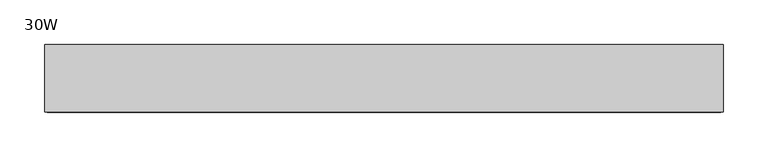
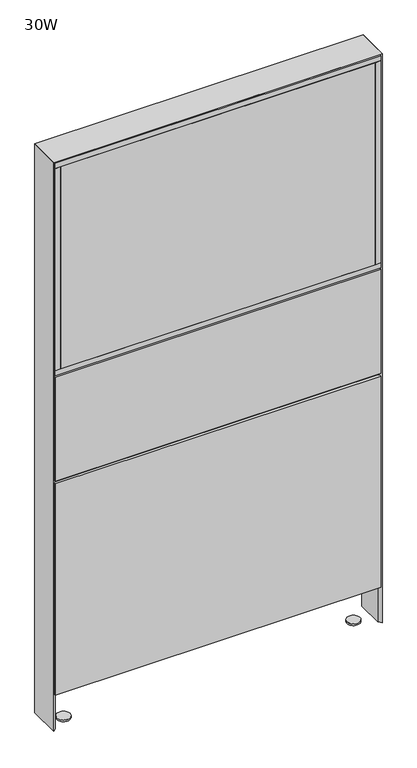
"""IFC4 building model written with IfcOpenShell, lengths in millimetres: furniture geometry, Steelcase - Montage - Frame - 55H - Enhanced Monolithic - Base Cavity : 30W."""

from ifc_helpers import new_model, si_unit, point, frame, frame_2d, origin, origin_with_axes, place, context, project, spatial, polyline, circle_curve, trimmed, segment, composite_curve, outline, extrude, faceted_brep, source, transform, mapped, element, save


def furniture_30w_86e96df7(model_context):
    return source(origin(), model_context, "Body", "SolidModel", [
        extrude(outline(polyline([(15.875, 38.1000015), (746.125, 38.1000015), (746.125, 31.7500017), (15.875, 31.7500017), (15.875, 38.1000015)])), frame((0.0, 0.0, 887.4125), z_axis=(0.0, 0.0, 1.0), x_axis=(1.0, 0.0, 0.0)), (0.0, 0.0, 1.0), 495.3),
        extrude(outline(polyline([(15.875, -31.7499985), (746.125, -31.7499985), (746.125, -38.1000015), (15.875, -38.1000015), (15.875, -31.7499985)])), frame((0.0, 0.0, 887.4125), z_axis=(0.0, 0.0, 1.0), x_axis=(1.0, 0.0, 0.0)), (0.0, 0.0, 1.0), 495.3),
        extrude(outline(polyline([(3.175, -38.1000015), (3.175, 38.1000015), (15.875, 38.1000015), (15.875, -38.1000015), (3.175, -38.1000015)])), frame((0.0, 0.0, 887.4125), z_axis=(0.0, 0.0, 1.0), x_axis=(1.0, 0.0, 0.0)), (0.0, 0.0, 1.0), 495.3),
        extrude(outline(polyline([(746.125, -38.1000015), (746.125, 38.1000015), (758.825, 38.1000015), (758.825, -38.1000015), (746.125, -38.1000015)])), frame((0.0, 0.0, 887.4125), z_axis=(0.0, 0.0, 1.0), x_axis=(1.0, 0.0, 0.0)), (0.0, 0.0, 1.0), 495.3),
        extrude(outline(polyline([(3.175, -38.1000015), (3.175, 38.1000015), (758.825, 38.1000015), (758.825, -38.1000015), (3.175, -38.1000015)])), frame((0.0, 0.0, 874.7125), z_axis=(0.0, 0.0, 1.0), x_axis=(1.0, 0.0, 0.0)), (0.0, 0.0, 1.0), 12.7),
        extrude(outline(polyline([(3.175, -38.1000015), (3.175, 38.1000015), (758.825, 38.1000015), (758.825, -38.1000015), (3.175, -38.1000015)])), frame((0.0, 0.0, 1382.7125), z_axis=(0.0, 0.0, 1.0), x_axis=(1.0, 0.0, 0.0)), (0.0, 0.0, 1.0), 12.7),
        extrude(outline(polyline([(758.825, 31.7500194), (3.175, 31.7500194), (3.175, 38.1000194), (758.825, 38.1000194), (758.825, 31.7500194)])), frame((0.0, 0.0, 615.95), z_axis=(0.0, 0.0, 1.0), x_axis=(1.0, 0.0, 0.0)), (0.0, 0.0, 1.0), 255.5875),
        extrude(outline(polyline([(758.825, 31.7500194), (3.175, 31.7500194), (3.175, 38.1000194), (758.825, 38.1000194), (758.825, 31.7500194)])), frame((0.0, 0.0, 92.075), z_axis=(0.0, 0.0, 1.0), x_axis=(1.0, 0.0, 0.0)), (0.0, 0.0, 1.0), 517.525),
        extrude(outline(polyline([(746.125, 38.1000015), (746.125, 31.7500017), (15.875, 31.7500017), (15.875, 38.1000015), (746.125, 38.1000015)])), frame((0.0, 0.0, 887.4125), z_axis=(0.0, 0.0, 1.0), x_axis=(1.0, 0.0, 0.0)), (0.0, 0.0, 1.0), 495.3),
        extrude(outline(polyline([(746.125, -31.7499985), (746.125, -38.1000015), (15.875, -38.1000015), (15.875, -31.7499985), (746.125, -31.7499985)])), frame((0.0, 0.0, 887.4125), z_axis=(0.0, 0.0, 1.0), x_axis=(1.0, 0.0, 0.0)), (0.0, 0.0, 1.0), 495.3),
        extrude(outline(polyline([(758.825, -38.1000015), (746.125, -38.1000015), (746.125, 38.1000015), (758.825, 38.1000015), (758.825, -38.1000015)])), frame((0.0, 0.0, 887.4125), z_axis=(0.0, 0.0, 1.0), x_axis=(1.0, 0.0, 0.0)), (0.0, 0.0, 1.0), 495.3),
        extrude(outline(polyline([(15.875, -38.1000015), (3.175, -38.1000015), (3.175, 38.1000015), (15.875, 38.1000015), (15.875, -38.1000015)])), frame((0.0, 0.0, 887.4125), z_axis=(0.0, 0.0, 1.0), x_axis=(1.0, 0.0, 0.0)), (0.0, 0.0, 1.0), 495.3),
        extrude(outline(polyline([(758.825, -38.1000015), (3.175, -38.1000015), (3.175, 38.1000015), (758.825, 38.1000015), (758.825, -38.1000015)])), frame((0.0, 0.0, 874.7125), z_axis=(0.0, 0.0, 1.0), x_axis=(1.0, 0.0, 0.0)), (0.0, 0.0, 1.0), 12.7),
        extrude(outline(polyline([(758.825, -38.1000015), (3.175, -38.1000015), (3.175, 38.1000015), (758.825, 38.1000015), (758.825, -38.1000015)])), frame((0.0, 0.0, 1382.7125), z_axis=(0.0, 0.0, 1.0), x_axis=(1.0, 0.0, 0.0)), (0.0, 0.0, 1.0), 12.7),
        extrude(outline(polyline([(3.175, 31.7500194), (3.175, 38.1000194), (758.825, 38.1000194), (758.825, 31.7500194), (3.175, 31.7500194)])), frame((0.0, 0.0, 615.95), z_axis=(0.0, 0.0, 1.0), x_axis=(1.0, 0.0, 0.0)), (0.0, 0.0, 1.0), 255.5875),
        extrude(outline(polyline([(3.175, 31.7500194), (3.175, 38.1000194), (758.825, 38.1000194), (758.825, 31.7500194), (3.175, 31.7500194)])), frame((0.0, 0.0, 92.075), z_axis=(0.0, 0.0, 1.0), x_axis=(1.0, 0.0, 0.0)), (0.0, 0.0, 1.0), 517.525),
        extrude(outline(polyline([(746.125, -38.1000015), (15.875, -38.1000015), (15.875, -31.7500017), (746.125, -31.7500017), (746.125, -38.1000015)])), frame((0.0, 0.0, 887.4125), z_axis=(0.0, 0.0, 1.0), x_axis=(1.0, 0.0, 0.0)), (0.0, 0.0, 1.0), 495.3),
        extrude(outline(polyline([(746.125, 31.7499985), (15.875, 31.7499985), (15.875, 38.1000015), (746.125, 38.1000015), (746.125, 31.7499985)])), frame((0.0, 0.0, 887.4125), z_axis=(0.0, 0.0, 1.0), x_axis=(1.0, 0.0, 0.0)), (0.0, 0.0, 1.0), 495.3),
        extrude(outline(polyline([(758.825, 38.1000015), (758.825, -38.1000015), (746.125, -38.1000015), (746.125, 38.1000015), (758.825, 38.1000015)])), frame((0.0, 0.0, 887.4125), z_axis=(0.0, 0.0, 1.0), x_axis=(1.0, 0.0, 0.0)), (0.0, 0.0, 1.0), 495.3),
        extrude(outline(polyline([(15.875, 38.1000015), (15.875, -38.1000015), (3.175, -38.1000015), (3.175, 38.1000015), (15.875, 38.1000015)])), frame((0.0, 0.0, 887.4125), z_axis=(0.0, 0.0, 1.0), x_axis=(1.0, 0.0, 0.0)), (0.0, 0.0, 1.0), 495.3),
        extrude(outline(polyline([(758.825, 38.1000015), (758.825, -38.1000015), (3.175, -38.1000015), (3.175, 38.1000015), (758.825, 38.1000015)])), frame((0.0, 0.0, 874.7125), z_axis=(0.0, 0.0, 1.0), x_axis=(1.0, 0.0, 0.0)), (0.0, 0.0, 1.0), 12.7),
        extrude(outline(polyline([(758.825, 38.1000015), (758.825, -38.1000015), (3.175, -38.1000015), (3.175, 38.1000015), (758.825, 38.1000015)])), frame((0.0, 0.0, 1382.7125), z_axis=(0.0, 0.0, 1.0), x_axis=(1.0, 0.0, 0.0)), (0.0, 0.0, 1.0), 12.7),
        extrude(outline(polyline([(3.175, -31.7500194), (758.825, -31.7500194), (758.825, -38.1000194), (3.175, -38.1000194), (3.175, -31.7500194)])), frame((0.0, 0.0, 615.95), z_axis=(0.0, 0.0, 1.0), x_axis=(1.0, 0.0, 0.0)), (0.0, 0.0, 1.0), 255.5875),
        extrude(outline(polyline([(3.175, -31.7500194), (758.825, -31.7500194), (758.825, -38.1000194), (3.175, -38.1000194), (3.175, -31.7500194)])), frame((0.0, 0.0, 92.075), z_axis=(0.0, 0.0, 1.0), x_axis=(1.0, 0.0, 0.0)), (0.0, 0.0, 1.0), 517.525),
        faceted_brep([(762.0, -38.1000015, 1398.5875), (0.0, -38.1000015, 1398.5875), (6.3500484, -31.749953, 1392.2374516), (755.6499516, -31.749953, 1392.2374516), (6.3500484, 31.749953, 1392.2374516), (755.6499516, 31.749953, 1392.2374516), (0.0, 38.1000015, 1398.5875), (762.0, 38.1000015, 1398.5875)], [[[0, 1, 2, 3]], [[3, 2, 4, 5]], [[6, 7, 5, 4]], [[1, 0, 7, 6]], [[2, 1, 6, 4]], [[0, 3, 5, 7]]]),
        extrude(outline(composite_curve([segment(trimmed(circle_curve(frame_2d((44.45, 0.0)), 15.24), [point((29.21, 0.0))], [point((59.69, 0.0))], False, "CARTESIAN"), True, "CONTINUOUS"), segment(trimmed(circle_curve(frame_2d((44.45, 0.0)), 15.24), [point((59.69, 0.0))], [point((29.21, 0.0))], False, "CARTESIAN"), True, "CONTINUOUS")], self_intersect=False)), origin_with_axes(), (0.0, 0.0, 1.0), 4.064),
        extrude(outline(composite_curve([segment(trimmed(circle_curve(frame_2d((717.55, 0.0)), 15.24), [point((702.31, 0.0))], [point((732.79, 0.0))], False, "CARTESIAN"), True, "CONTINUOUS"), segment(trimmed(circle_curve(frame_2d((717.55, 0.0)), 15.24), [point((732.79, 0.0))], [point((702.31, 0.0))], False, "CARTESIAN"), True, "CONTINUOUS")], self_intersect=False)), origin_with_axes(), (0.0, 0.0, 1.0), 4.064),
        faceted_brep([(762.0, -38.1000106, 4.064), (762.0, 38.1000015, 4.064), (762.0, 38.1000015, 1398.5875), (762.0, -38.1000106, 1398.5874637), (0.0, 38.1000015, 4.064), (0.0, -38.1000015, 4.064), (0.0, -38.1000015, 1398.5875), (0.0, 38.1000015, 1398.5875), (755.6499879, 31.7500017, 606.425), (6.35, 31.7500017, 606.425), (6.3499998, 31.7500017, 619.125), (755.6499879, 31.7500017, 619.125), (6.35, -31.7499985, 619.125), (755.6499879, -31.7499985, 619.125), (6.350003, -31.7499985, 606.425), (755.6499879, -31.7499985, 606.425), (6.35, 31.7500015, 4.064), (6.35, -31.7500015, 4.064), (755.6499879, 31.7499894, 4.064), (755.6499879, -31.7499985, 4.064), (6.35, 31.7500015, 1392.2375), (6.35, -31.7500015, 1392.2375), (755.6499879, -31.7499985, 1392.2374516), (755.6499879, 31.7499895, 1392.2374516)], [[[0, 1, 2, 3]], [[4, 5, 6, 7]], [[8, 9, 10, 11]], [[11, 10, 12, 13]], [[13, 12, 14, 15]], [[9, 8, 15, 14]], [[16, 17, 5, 4]], [[18, 1, 0, 19]], [[16, 4, 7, 20, 10, 9]], [[5, 17, 14, 12, 21, 6]], [[12, 10, 20, 21]], [[17, 16, 9, 14]], [[11, 13, 22, 23]], [[18, 19, 15, 8]], [[19, 0, 3, 22, 13, 15]], [[1, 18, 8, 11, 23, 2]], [[7, 6, 21, 20]], [[3, 2, 23, 22]]]),
    ])


if __name__ == "__main__":
    model = new_model("IFC4")
    model_context = context("Model", 3, world=origin())
    ifc_project = project(units=[si_unit("LENGTHUNIT", "METRE", prefix="MILLI")], contexts=[model_context])
    site = spatial("IfcSite", under=ifc_project)
    building = spatial("IfcBuilding", under=site)
    placement = place(None, origin())
    furniture_30w_shape = furniture_30w_86e96df7(model_context)
    element("IfcFurniture", 1, ObjectType="Steelcase - Montage - Frame - 55H - Enhanced Monolithic - Base Cavity : 30W", at=placement, inside=building, context=model_context, shape_type="MappedRepresentation", body=[
        mapped(furniture_30w_shape, transform((0.0, 0.0, 0.0), x_axis=(1.0, 0.0, 0.0), y_axis=(0.0, 1.0, 0.0), z_axis=(0.0, 0.0, 1.0))),
    ])
    save(model, "model.ifc")
